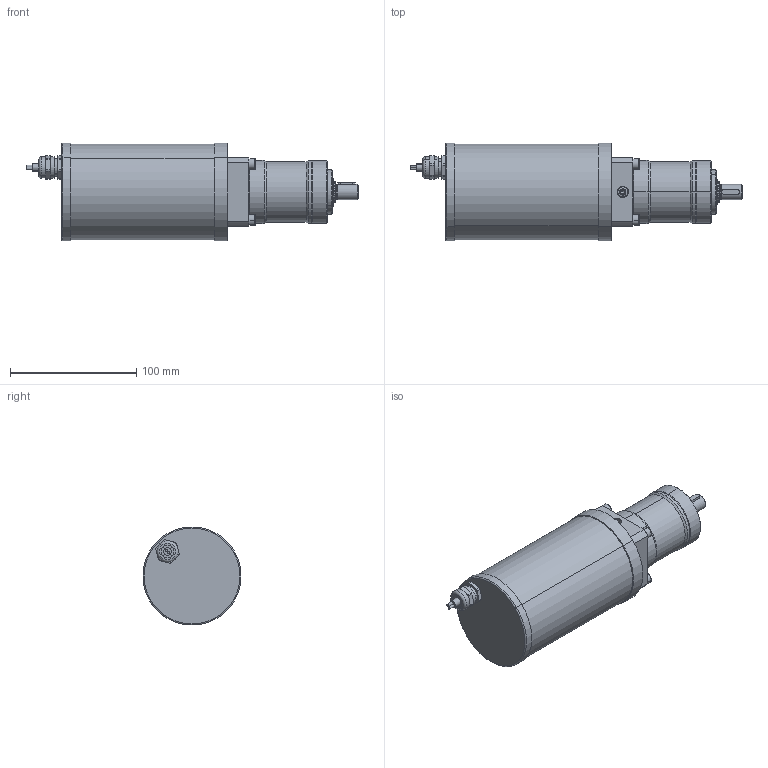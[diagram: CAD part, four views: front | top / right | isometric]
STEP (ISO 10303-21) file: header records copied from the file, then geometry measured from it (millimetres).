
FILE_DESCRIPTION (( 'STEP AP214' ), '1' );
FILE_NAME ('P000638_GP-RPL050 110W i=25.STEP', '2022-08-17T10:45:02', ( '' ), ( '' ), 'SwSTEP 2.0', 'SolidWorks 2021', '' );
FILE_SCHEMA (( 'AUTOMOTIVE_DESIGN' ));
Length unit declared in the file: millimetre
Products named in the file (7): P000638_GP-RPL050 110W i=25; RPL050-025; RPL050-F-003; socket head cap screw_iso_ISO 4762 M4 x 16 - 16C; RP-M-001; O000012 Reduzierhülse RPL050 18-9-3-A050-000-067; socket head cap screw_iso_ISO 4762 M5 x 25 - 25C
Assembly tree (12 placements, depth 2):
  P000638_GP-RPL050 110W i=25
    RPL050-025
    RP-M-001
    RPL050-F-003
    O000012 Reduzierhülse RPL050 18-9-3-A050-000-067
    socket head cap screw_iso_ISO 4762 M5 x 25 - 25C  x4
    socket head cap screw_iso_ISO 4762 M4 x 16 - 16C  x4
Bounding box: 263.3 x 77.7 x 77.7 mm (x, y, z)
Volume: 770927 mm3; surface area: 82232.5 mm2
Topology: 12 solids, 15 shells, 631 faces, 1453 edges, 867 vertices
Faces by surface type: plane 218, cylinder 211, cone 148, torus 44, bspline 10
Entity records: 17336 total; most frequent: CARTESIAN_POINT 3280, DIRECTION 2545, ORIENTED_EDGE 2142, EDGE_CURVE 1071, AXIS2_PLACEMENT_3D 1046, VERTEX_POINT 669, CIRCLE 572, EDGE_LOOP 546
